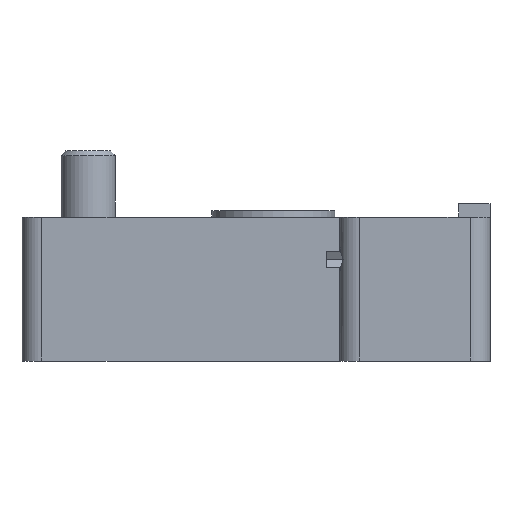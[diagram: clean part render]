
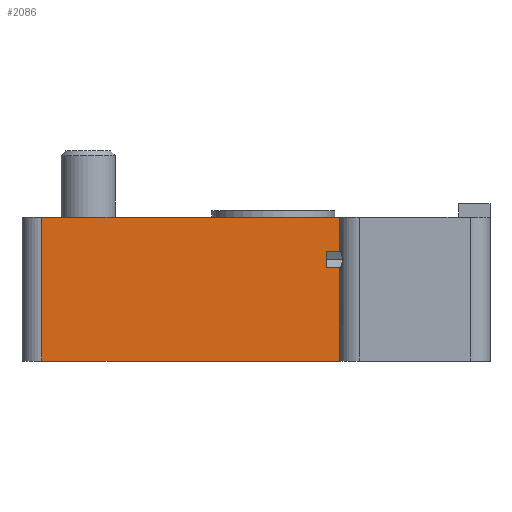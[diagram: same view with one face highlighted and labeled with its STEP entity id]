
A CAD part, left-side view. The second image highlights one B-rep face of the part: STEP entity #2086.
In plain terms, the highlighted planar face has unit normal (-1, 0, 0).
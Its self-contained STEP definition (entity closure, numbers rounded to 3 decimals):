
#44 = PLANE('',#45);
#45 = AXIS2_PLACEMENT_3D('',#46,#47,#48);
#46 = CARTESIAN_POINT('',(-15.,-16.37,-0.5));
#47 = DIRECTION('',(0.,0.,1.));
#48 = DIRECTION('',(1.,0.,0.));
#100 = PLANE('',#101);
#101 = AXIS2_PLACEMENT_3D('',#102,#103,#104);
#102 = CARTESIAN_POINT('',(-15.,-16.37,-11.375));
#103 = DIRECTION('',(0.,0.,1.));
#104 = DIRECTION('',(1.,0.,0.));
#507 = VERTEX_POINT('',#508);
#508 = CARTESIAN_POINT('',(-8.,17.5,-0.5));
#527 = CYLINDRICAL_SURFACE('',#528,1.5);
#528 = AXIS2_PLACEMENT_3D('',#529,#530,#531);
#529 = CARTESIAN_POINT('',(-6.5,17.5,-11.375));
#530 = DIRECTION('',(0.,0.,1.));
#531 = DIRECTION('',(-1.,-0.,0.));
#539 = EDGE_CURVE('',#540,#507,#542,.T.);
#540 = VERTEX_POINT('',#541);
#541 = CARTESIAN_POINT('',(-8.,-5.,-0.5));
#542 = SURFACE_CURVE('',#543,(#547,#554),.PCURVE_S1.);
#543 = LINE('',#544,#545);
#544 = CARTESIAN_POINT('',(-8.,-8.,-0.5));
#545 = VECTOR('',#546,1.);
#546 = DIRECTION('',(0.,1.,0.));
#547 = PCURVE('',#44,#548);
#548 = DEFINITIONAL_REPRESENTATION('',(#549),#553);
#549 = LINE('',#550,#551);
#550 = CARTESIAN_POINT('',(7.,8.37));
#551 = VECTOR('',#552,1.);
#552 = DIRECTION('',(0.,1.));
#553 = ( GEOMETRIC_REPRESENTATION_CONTEXT(2) 
PARAMETRIC_REPRESENTATION_CONTEXT() REPRESENTATION_CONTEXT('2D SPACE',''
  ) );
#554 = PCURVE('',#555,#560);
#555 = PLANE('',#556);
#556 = AXIS2_PLACEMENT_3D('',#557,#558,#559);
#557 = CARTESIAN_POINT('',(-8.,-8.,-11.375));
#558 = DIRECTION('',(1.,0.,0.));
#559 = DIRECTION('',(0.,0.,1.));
#560 = DEFINITIONAL_REPRESENTATION('',(#561),#565);
#561 = LINE('',#562,#563);
#562 = CARTESIAN_POINT('',(10.875,0.));
#563 = VECTOR('',#564,1.);
#564 = DIRECTION('',(0.,-1.));
#565 = ( GEOMETRIC_REPRESENTATION_CONTEXT(2) 
PARAMETRIC_REPRESENTATION_CONTEXT() REPRESENTATION_CONTEXT('2D SPACE',''
  ) );
#583 = PLANE('',#584);
#584 = AXIS2_PLACEMENT_3D('',#585,#586,#587);
#585 = CARTESIAN_POINT('',(-15.,-5.,-11.375));
#586 = DIRECTION('',(0.,1.,0.));
#587 = DIRECTION('',(0.,0.,1.));
#993 = PLANE('',#994);
#994 = AXIS2_PLACEMENT_3D('',#995,#996,#997);
#995 = CARTESIAN_POINT('',(-15.,-5.,-11.375));
#996 = DIRECTION('',(0.,1.,0.));
#997 = DIRECTION('',(0.,0.,1.));
#1502 = VERTEX_POINT('',#1503);
#1503 = CARTESIAN_POINT('',(-8.,17.5,-11.375));
#1529 = EDGE_CURVE('',#1530,#1502,#1532,.T.);
#1530 = VERTEX_POINT('',#1531);
#1531 = CARTESIAN_POINT('',(-8.,-5.,-11.375));
#1532 = SURFACE_CURVE('',#1533,(#1537,#1544),.PCURVE_S1.);
#1533 = LINE('',#1534,#1535);
#1534 = CARTESIAN_POINT('',(-8.,-8.,-11.375));
#1535 = VECTOR('',#1536,1.);
#1536 = DIRECTION('',(0.,1.,0.));
#1537 = PCURVE('',#100,#1538);
#1538 = DEFINITIONAL_REPRESENTATION('',(#1539),#1543);
#1539 = LINE('',#1540,#1541);
#1540 = CARTESIAN_POINT('',(7.,8.37));
#1541 = VECTOR('',#1542,1.);
#1542 = DIRECTION('',(0.,1.));
#1543 = ( GEOMETRIC_REPRESENTATION_CONTEXT(2) 
PARAMETRIC_REPRESENTATION_CONTEXT() REPRESENTATION_CONTEXT('2D SPACE',''
  ) );
#1544 = PCURVE('',#555,#1545);
#1545 = DEFINITIONAL_REPRESENTATION('',(#1546),#1550);
#1546 = LINE('',#1547,#1548);
#1547 = CARTESIAN_POINT('',(0.,0.));
#1548 = VECTOR('',#1549,1.);
#1549 = DIRECTION('',(0.,-1.));
#1550 = ( GEOMETRIC_REPRESENTATION_CONTEXT(2) 
PARAMETRIC_REPRESENTATION_CONTEXT() REPRESENTATION_CONTEXT('2D SPACE',''
  ) );
#1967 = EDGE_CURVE('',#540,#1968,#1970,.T.);
#1968 = VERTEX_POINT('',#1969);
#1969 = CARTESIAN_POINT('',(-8.,-5.,-3.096));
#1970 = SURFACE_CURVE('',#1971,(#1975,#1981),.PCURVE_S1.);
#1971 = LINE('',#1972,#1973);
#1972 = CARTESIAN_POINT('',(-8.,-5.,-11.375));
#1973 = VECTOR('',#1974,1.);
#1974 = DIRECTION('',(0.,0.,-1.));
#1975 = PCURVE('',#583,#1976);
#1976 = DEFINITIONAL_REPRESENTATION('',(#1977),#1980);
#1977 = B_SPLINE_CURVE_WITH_KNOTS('',1,(#1978,#1979),.UNSPECIFIED.,.F.,
  .F.,(2,2),(-10.875,0.),.PIECEWISE_BEZIER_KNOTS.);
#1978 = CARTESIAN_POINT('',(10.875,7.));
#1979 = CARTESIAN_POINT('',(0.,7.));
#1980 = ( GEOMETRIC_REPRESENTATION_CONTEXT(2) 
PARAMETRIC_REPRESENTATION_CONTEXT() REPRESENTATION_CONTEXT('2D SPACE',''
  ) );
#1981 = PCURVE('',#555,#1982);
#1982 = DEFINITIONAL_REPRESENTATION('',(#1983),#1986);
#1983 = B_SPLINE_CURVE_WITH_KNOTS('',1,(#1984,#1985),.UNSPECIFIED.,.F.,
  .F.,(2,2),(-10.875,0.),.PIECEWISE_BEZIER_KNOTS.);
#1984 = CARTESIAN_POINT('',(10.875,-3.));
#1985 = CARTESIAN_POINT('',(0.,-3.));
#1986 = ( GEOMETRIC_REPRESENTATION_CONTEXT(2) 
PARAMETRIC_REPRESENTATION_CONTEXT() REPRESENTATION_CONTEXT('2D SPACE',''
  ) );
#2003 = PLANE('',#2004);
#2004 = AXIS2_PLACEMENT_3D('',#2005,#2006,#2007);
#2005 = CARTESIAN_POINT('',(-7.651,-4.,-3.7));
#2006 = DIRECTION('',(-0.866,-0.,-0.5));
#2007 = DIRECTION('',(-0.5,0.,0.866));
#2086 = ADVANCED_FACE('',(#2087),#555,.F.);
#2087 = FACE_BOUND('',#2088,.F.);
#2088 = EDGE_LOOP('',(#2089,#2090,#2091,#2112,#2138,#2164,#2183,#2184));
#2089 = ORIENTED_EDGE('',*,*,#539,.F.);
#2090 = ORIENTED_EDGE('',*,*,#1967,.T.);
#2091 = ORIENTED_EDGE('',*,*,#2092,.T.);
#2092 = EDGE_CURVE('',#1968,#2093,#2095,.T.);
#2093 = VERTEX_POINT('',#2094);
#2094 = CARTESIAN_POINT('',(-8.,-4.,-3.096));
#2095 = SURFACE_CURVE('',#2096,(#2100,#2106),.PCURVE_S1.);
#2096 = LINE('',#2097,#2098);
#2097 = CARTESIAN_POINT('',(-8.,-6.,-3.096));
#2098 = VECTOR('',#2099,1.);
#2099 = DIRECTION('',(0.,1.,0.));
#2100 = PCURVE('',#555,#2101);
#2101 = DEFINITIONAL_REPRESENTATION('',(#2102),#2105);
#2102 = B_SPLINE_CURVE_WITH_KNOTS('',1,(#2103,#2104),.UNSPECIFIED.,.F.,
  .F.,(2,2),(1.,2.),.PIECEWISE_BEZIER_KNOTS.);
#2103 = CARTESIAN_POINT('',(8.279,-3.));
#2104 = CARTESIAN_POINT('',(8.279,-4.));
#2105 = ( GEOMETRIC_REPRESENTATION_CONTEXT(2) 
PARAMETRIC_REPRESENTATION_CONTEXT() REPRESENTATION_CONTEXT('2D SPACE',''
  ) );
#2106 = PCURVE('',#2003,#2107);
#2107 = DEFINITIONAL_REPRESENTATION('',(#2108),#2111);
#2108 = B_SPLINE_CURVE_WITH_KNOTS('',1,(#2109,#2110),.UNSPECIFIED.,.F.,
  .F.,(2,2),(1.,2.),.PIECEWISE_BEZIER_KNOTS.);
#2109 = CARTESIAN_POINT('',(0.697,-1.));
#2110 = CARTESIAN_POINT('',(0.697,0.));
#2111 = ( GEOMETRIC_REPRESENTATION_CONTEXT(2) 
PARAMETRIC_REPRESENTATION_CONTEXT() REPRESENTATION_CONTEXT('2D SPACE',''
  ) );
#2112 = ORIENTED_EDGE('',*,*,#2113,.T.);
#2113 = EDGE_CURVE('',#2093,#2114,#2116,.T.);
#2114 = VERTEX_POINT('',#2115);
#2115 = CARTESIAN_POINT('',(-8.,-4.,-4.304));
#2116 = SURFACE_CURVE('',#2117,(#2121,#2127),.PCURVE_S1.);
#2117 = LINE('',#2118,#2119);
#2118 = CARTESIAN_POINT('',(-8.,-4.,-7.538));
#2119 = VECTOR('',#2120,1.);
#2120 = DIRECTION('',(0.,0.,-1.));
#2121 = PCURVE('',#555,#2122);
#2122 = DEFINITIONAL_REPRESENTATION('',(#2123),#2126);
#2123 = B_SPLINE_CURVE_WITH_KNOTS('',1,(#2124,#2125),.UNSPECIFIED.,.F.,
  .F.,(2,2),(-6.738,-0.938),.PIECEWISE_BEZIER_KNOTS.);
#2124 = CARTESIAN_POINT('',(10.575,-4.));
#2125 = CARTESIAN_POINT('',(4.775,-4.));
#2126 = ( GEOMETRIC_REPRESENTATION_CONTEXT(2) 
PARAMETRIC_REPRESENTATION_CONTEXT() REPRESENTATION_CONTEXT('2D SPACE',''
  ) );
#2127 = PCURVE('',#2128,#2133);
#2128 = PLANE('',#2129);
#2129 = AXIS2_PLACEMENT_3D('',#2130,#2131,#2132);
#2130 = CARTESIAN_POINT('',(-11.,-4.,-3.7));
#2131 = DIRECTION('',(-0.,-1.,-0.));
#2132 = DIRECTION('',(0.,0.,-1.));
#2133 = DEFINITIONAL_REPRESENTATION('',(#2134),#2137);
#2134 = B_SPLINE_CURVE_WITH_KNOTS('',1,(#2135,#2136),.UNSPECIFIED.,.F.,
  .F.,(2,2),(-6.738,-0.938),.PIECEWISE_BEZIER_KNOTS.);
#2135 = CARTESIAN_POINT('',(-2.9,3.));
#2136 = CARTESIAN_POINT('',(2.9,3.));
#2137 = ( GEOMETRIC_REPRESENTATION_CONTEXT(2) 
PARAMETRIC_REPRESENTATION_CONTEXT() REPRESENTATION_CONTEXT('2D SPACE',''
  ) );
#2138 = ORIENTED_EDGE('',*,*,#2139,.T.);
#2139 = EDGE_CURVE('',#2114,#2140,#2142,.T.);
#2140 = VERTEX_POINT('',#2141);
#2141 = CARTESIAN_POINT('',(-8.,-5.,-4.304));
#2142 = SURFACE_CURVE('',#2143,(#2147,#2153),.PCURVE_S1.);
#2143 = LINE('',#2144,#2145);
#2144 = CARTESIAN_POINT('',(-8.,-6.,-4.304));
#2145 = VECTOR('',#2146,1.);
#2146 = DIRECTION('',(0.,-1.,0.));
#2147 = PCURVE('',#555,#2148);
#2148 = DEFINITIONAL_REPRESENTATION('',(#2149),#2152);
#2149 = B_SPLINE_CURVE_WITH_KNOTS('',1,(#2150,#2151),.UNSPECIFIED.,.F.,
  .F.,(2,2),(-2.,-1.),.PIECEWISE_BEZIER_KNOTS.);
#2150 = CARTESIAN_POINT('',(7.071,-4.));
#2151 = CARTESIAN_POINT('',(7.071,-3.));
#2152 = ( GEOMETRIC_REPRESENTATION_CONTEXT(2) 
PARAMETRIC_REPRESENTATION_CONTEXT() REPRESENTATION_CONTEXT('2D SPACE',''
  ) );
#2153 = PCURVE('',#2154,#2159);
#2154 = PLANE('',#2155);
#2155 = AXIS2_PLACEMENT_3D('',#2156,#2157,#2158);
#2156 = CARTESIAN_POINT('',(-9.326,-4.,-6.6));
#2157 = DIRECTION('',(-0.866,0.,0.5));
#2158 = DIRECTION('',(0.5,0.,0.866));
#2159 = DEFINITIONAL_REPRESENTATION('',(#2160),#2163);
#2160 = B_SPLINE_CURVE_WITH_KNOTS('',1,(#2161,#2162),.UNSPECIFIED.,.F.,
  .F.,(2,2),(-2.,-1.),.PIECEWISE_BEZIER_KNOTS.);
#2161 = CARTESIAN_POINT('',(2.651,0.));
#2162 = CARTESIAN_POINT('',(2.651,-1.));
#2163 = ( GEOMETRIC_REPRESENTATION_CONTEXT(2) 
PARAMETRIC_REPRESENTATION_CONTEXT() REPRESENTATION_CONTEXT('2D SPACE',''
  ) );
#2164 = ORIENTED_EDGE('',*,*,#2165,.T.);
#2165 = EDGE_CURVE('',#2140,#1530,#2166,.T.);
#2166 = SURFACE_CURVE('',#2167,(#2171,#2177),.PCURVE_S1.);
#2167 = LINE('',#2168,#2169);
#2168 = CARTESIAN_POINT('',(-8.,-5.,-11.375));
#2169 = VECTOR('',#2170,1.);
#2170 = DIRECTION('',(0.,0.,-1.));
#2171 = PCURVE('',#555,#2172);
#2172 = DEFINITIONAL_REPRESENTATION('',(#2173),#2176);
#2173 = B_SPLINE_CURVE_WITH_KNOTS('',1,(#2174,#2175),.UNSPECIFIED.,.F.,
  .F.,(2,2),(-10.875,0.),.PIECEWISE_BEZIER_KNOTS.);
#2174 = CARTESIAN_POINT('',(10.875,-3.));
#2175 = CARTESIAN_POINT('',(0.,-3.));
#2176 = ( GEOMETRIC_REPRESENTATION_CONTEXT(2) 
PARAMETRIC_REPRESENTATION_CONTEXT() REPRESENTATION_CONTEXT('2D SPACE',''
  ) );
#2177 = PCURVE('',#993,#2178);
#2178 = DEFINITIONAL_REPRESENTATION('',(#2179),#2182);
#2179 = B_SPLINE_CURVE_WITH_KNOTS('',1,(#2180,#2181),.UNSPECIFIED.,.F.,
  .F.,(2,2),(-10.875,0.),.PIECEWISE_BEZIER_KNOTS.);
#2180 = CARTESIAN_POINT('',(10.875,7.));
#2181 = CARTESIAN_POINT('',(0.,7.));
#2182 = ( GEOMETRIC_REPRESENTATION_CONTEXT(2) 
PARAMETRIC_REPRESENTATION_CONTEXT() REPRESENTATION_CONTEXT('2D SPACE',''
  ) );
#2183 = ORIENTED_EDGE('',*,*,#1529,.T.);
#2184 = ORIENTED_EDGE('',*,*,#2185,.T.);
#2185 = EDGE_CURVE('',#1502,#507,#2186,.T.);
#2186 = SURFACE_CURVE('',#2187,(#2191,#2198),.PCURVE_S1.);
#2187 = LINE('',#2188,#2189);
#2188 = CARTESIAN_POINT('',(-8.,17.5,-11.375));
#2189 = VECTOR('',#2190,1.);
#2190 = DIRECTION('',(0.,0.,1.));
#2191 = PCURVE('',#555,#2192);
#2192 = DEFINITIONAL_REPRESENTATION('',(#2193),#2197);
#2193 = LINE('',#2194,#2195);
#2194 = CARTESIAN_POINT('',(0.,-25.5));
#2195 = VECTOR('',#2196,1.);
#2196 = DIRECTION('',(1.,0.));
#2197 = ( GEOMETRIC_REPRESENTATION_CONTEXT(2) 
PARAMETRIC_REPRESENTATION_CONTEXT() REPRESENTATION_CONTEXT('2D SPACE',''
  ) );
#2198 = PCURVE('',#527,#2199);
#2199 = DEFINITIONAL_REPRESENTATION('',(#2200),#2204);
#2200 = LINE('',#2201,#2202);
#2201 = CARTESIAN_POINT('',(-0.,0.));
#2202 = VECTOR('',#2203,1.);
#2203 = DIRECTION('',(-0.,1.));
#2204 = ( GEOMETRIC_REPRESENTATION_CONTEXT(2) 
PARAMETRIC_REPRESENTATION_CONTEXT() REPRESENTATION_CONTEXT('2D SPACE',''
  ) );
